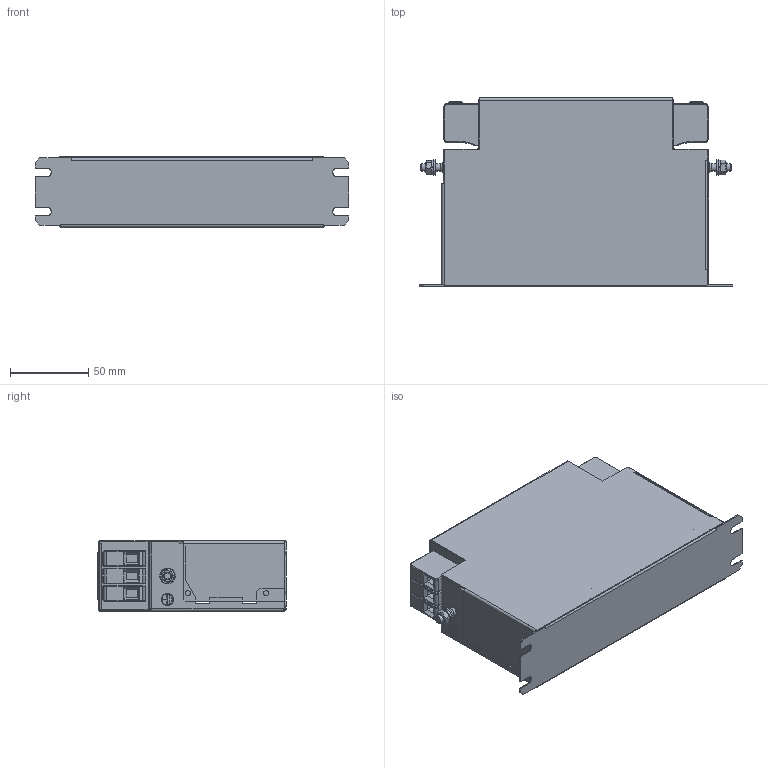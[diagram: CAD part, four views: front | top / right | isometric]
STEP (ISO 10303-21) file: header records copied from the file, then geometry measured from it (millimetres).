
FILE_DESCRIPTION(/* description */ ('raw material description'),/* implementation_level */ '2;1');
FILE_NAME(/* name */ 'C:\Users\Oliver.Volic\OneDrive - Schaffner EMV AG\Projekte\STEP\Wanda\FN3287-16-44.stp',/* time_stamp */ '2018-06-27T16:44:33+02:00',/* author */ ('Oliver.Volic'),/* organization */ ('Schaffner EMV AG'),/* preprocessor_version */ 'ST-DEVELOPER v16.5',/* originating_system */ 'Autodesk Inventor 2017',/* authorisation */ '');
FILE_SCHEMA (('AUTOMOTIVE_DESIGN { 1 0 10303 214 3 1 1 }'));
Length unit declared in the file: millimetre
Products named in the file (1): FN3287-16-44
Bounding box: 200 x 120.1 x 45 mm (x, y, z)
Volume: 96186.2 mm3; surface area: 145729.3 mm2
Topology: 1 solids, 2 shells, 1125 faces, 2833 edges, 1737 vertices
Faces by surface type: plane 700, cylinder 298, torus 60, sphere 36, bspline 17, cone 14
Full cylindrical faces by diameter (mm): 3.3 x13, 4.5 x6, 5 x4, 5.3 x2, 6.206 x2, 7 x2, 8 x2, 8.5 x6, 10 x2
Entity records: 33962 total; most frequent: CARTESIAN_POINT 6060, DIRECTION 5599, ORIENTED_EDGE 5404, EDGE_CURVE 2700, LINE 1905, VECTOR 1905, AXIS2_PLACEMENT_3D 1847, VERTEX_POINT 1717
